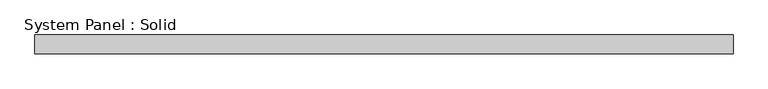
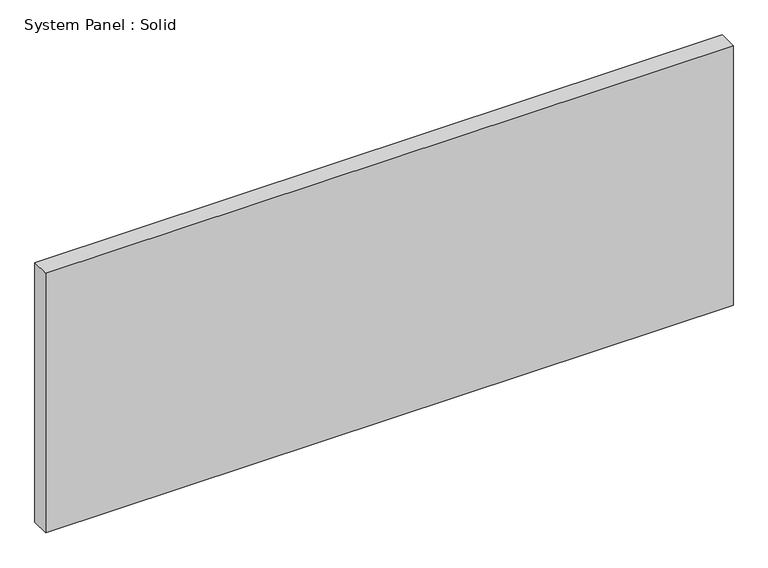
"""IFC4 building model written with IfcOpenShell, lengths in millimetres: plate geometry, System Panel : Solid."""

from ifc_helpers import new_model, si_unit, origin, origin_with_axes, place, context, project, spatial, polyline, outline, extrude, source, transform, mapped, element, save


def system_panel_solid_3860f7db(model_context):
    return source(origin(), model_context, "Body", "SweptSolid", [
        extrude(outline(polyline([(1169.6253472, -19.05), (-1169.6253472, -19.05), (-1169.6253472, 44.45), (1169.6253472, 44.45), (1169.6253472, -19.05)])), origin_with_axes(), (0.0, 0.0, 1.0), 934.4542378),
    ])


if __name__ == "__main__":
    model = new_model("IFC4")
    model_context = context("Model", 3, world=origin())
    ifc_project = project(units=[si_unit("LENGTHUNIT", "METRE", prefix="MILLI")], contexts=[model_context])
    site = spatial("IfcSite", under=ifc_project)
    building = spatial("IfcBuilding", under=site)
    placement = place(None, origin())
    system_panel_solid_shape = system_panel_solid_3860f7db(model_context)
    element("IfcPlate", 1, ObjectType="System Panel : Solid", at=placement, inside=building, context=model_context, shape_type="MappedRepresentation", body=[
        mapped(system_panel_solid_shape, transform((0.0, 0.0, 0.0), x_axis=(1.0, 0.0, 0.0), y_axis=(0.0, 1.0, 0.0), z_axis=(0.0, 0.0, 1.0))),
    ])
    save(model, "model.ifc")
